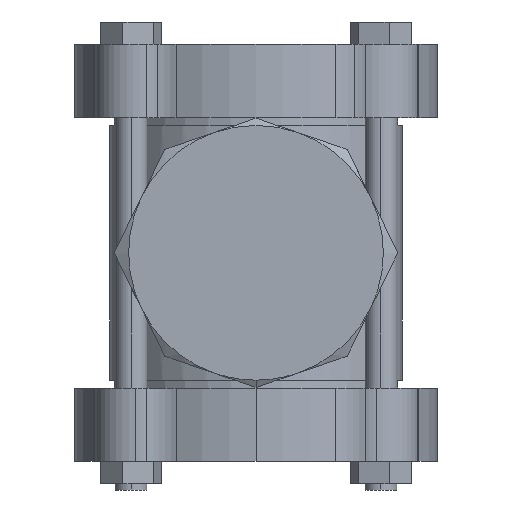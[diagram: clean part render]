
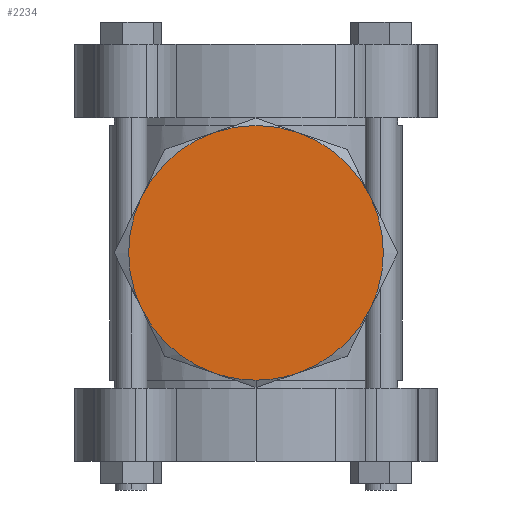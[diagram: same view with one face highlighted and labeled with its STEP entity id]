
A CAD part, left-side view. The second image highlights one B-rep face of the part: STEP entity #2234.
In plain terms, the highlighted planar face has unit normal (-1, 0, 0).
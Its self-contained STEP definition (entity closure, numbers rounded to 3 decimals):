
#44 = EDGE_CURVE ( 'NONE', #5897, #6286, #353, .T. ) ;
#86 = CARTESIAN_POINT ( 'NONE',  ( -81., 0., 0. ) ) ;
#103 = DIRECTION ( 'NONE',  ( 0., 0., -1. ) ) ;
#211 = DIRECTION ( 'NONE',  ( 1., 0., 0. ) ) ;
#218 = DIRECTION ( 'NONE',  ( 0., 0., -1. ) ) ;
#296 = PLANE ( 'NONE',  #2321 ) ;
#353 = CIRCLE ( 'NONE', #3074, 40. ) ;
#376 = AXIS2_PLACEMENT_3D ( 'NONE', #2603, #3188, #1596 ) ;
#561 = AXIS2_PLACEMENT_3D ( 'NONE', #3323, #4325, #218 ) ;
#702 = DIRECTION ( 'NONE',  ( 1., 0., 0. ) ) ;
#735 = VERTEX_POINT ( 'NONE', #889 ) ;
#854 = CARTESIAN_POINT ( 'NONE',  ( -81., -35.927, 17.585 ) ) ;
#889 = CARTESIAN_POINT ( 'NONE',  ( -81., -12.97, -37.839 ) ) ;
#1176 = DIRECTION ( 'NONE',  ( 1., 0., 0. ) ) ;
#1218 = AXIS2_PLACEMENT_3D ( 'NONE', #6439, #6302, #103 ) ;
#1270 = DIRECTION ( 'NONE',  ( 0., 0., -1. ) ) ;
#1299 = ORIENTED_EDGE ( 'NONE', *, *, #44, .F. ) ;
#1360 = CARTESIAN_POINT ( 'NONE',  ( -81., 0., 0. ) ) ;
#1466 = CIRCLE ( 'NONE', #376, 40. ) ;
#1596 = DIRECTION ( 'NONE',  ( 0., 0., -1. ) ) ;
#1866 = DIRECTION ( 'NONE',  ( 0., 0., -1. ) ) ;
#1945 = ORIENTED_EDGE ( 'NONE', *, *, #5722, .F. ) ;
#2021 = ORIENTED_EDGE ( 'NONE', *, *, #3862, .F. ) ;
#2072 = AXIS2_PLACEMENT_3D ( 'NONE', #3851, #5931, #1270 ) ;
#2095 = CIRCLE ( 'NONE', #5349, 40. ) ;
#2136 = CARTESIAN_POINT ( 'NONE',  ( -81., -12.97, 37.839 ) ) ;
#2199 = VERTEX_POINT ( 'NONE', #5428 ) ;
#2234 = ADVANCED_FACE ( 'NONE', ( #2269 ), #296, .F. ) ;
#2269 = FACE_OUTER_BOUND ( 'NONE', #6065, .T. ) ;
#2291 = DIRECTION ( 'NONE',  ( 0., 0., -1. ) ) ;
#2321 = AXIS2_PLACEMENT_3D ( 'NONE', #1360, #702, #1866 ) ;
#2459 = ORIENTED_EDGE ( 'NONE', *, *, #4028, .T. ) ;
#2603 = CARTESIAN_POINT ( 'NONE',  ( -81., 0., 0. ) ) ;
#2616 = AXIS2_PLACEMENT_3D ( 'NONE', #86, #1176, #5802 ) ;
#2623 = DIRECTION ( 'NONE',  ( 1., 0., 0. ) ) ;
#2643 = DIRECTION ( 'NONE',  ( 0., 0., 1. ) ) ;
#2846 = ORIENTED_EDGE ( 'NONE', *, *, #6565, .F. ) ;
#3074 = AXIS2_PLACEMENT_3D ( 'NONE', #5245, #2623, #5666 ) ;
#3097 = ORIENTED_EDGE ( 'NONE', *, *, #6093, .F. ) ;
#3188 = DIRECTION ( 'NONE',  ( 1., 0., 0. ) ) ;
#3273 = DIRECTION ( 'NONE',  ( 1., 0., 0. ) ) ;
#3277 = CIRCLE ( 'NONE', #4145, 40. ) ;
#3323 = CARTESIAN_POINT ( 'NONE',  ( -81., 0., 0. ) ) ;
#3456 = VERTEX_POINT ( 'NONE', #4965 ) ;
#3556 = CARTESIAN_POINT ( 'NONE',  ( -81., -35.927, -17.585 ) ) ;
#3699 = CARTESIAN_POINT ( 'NONE',  ( -81., 0., 0. ) ) ;
#3734 = EDGE_CURVE ( 'NONE', #6222, #735, #4791, .T. ) ;
#3851 = CARTESIAN_POINT ( 'NONE',  ( -81., 0., 0. ) ) ;
#3862 = EDGE_CURVE ( 'NONE', #6711, #4020, #6435, .T. ) ;
#4020 = VERTEX_POINT ( 'NONE', #2136 ) ;
#4028 = EDGE_CURVE ( 'NONE', #6711, #6286, #3277, .T. ) ;
#4052 = CIRCLE ( 'NONE', #1218, 40. ) ;
#4145 = AXIS2_PLACEMENT_3D ( 'NONE', #3699, #4273, #2643 ) ;
#4273 = DIRECTION ( 'NONE',  ( -1., 0., 0. ) ) ;
#4325 = DIRECTION ( 'NONE',  ( 1., 0., 0. ) ) ;
#4564 = ORIENTED_EDGE ( 'NONE', *, *, #4847, .F. ) ;
#4791 = CIRCLE ( 'NONE', #2616, 40. ) ;
#4847 = EDGE_CURVE ( 'NONE', #3456, #5897, #1466, .T. ) ;
#4865 = DIRECTION ( 'NONE',  ( 0., 0., -1. ) ) ;
#4965 = CARTESIAN_POINT ( 'NONE',  ( -81., 12.97, -37.839 ) ) ;
#5007 = CIRCLE ( 'NONE', #2072, 40. ) ;
#5028 = ORIENTED_EDGE ( 'NONE', *, *, #3734, .F. ) ;
#5074 = CARTESIAN_POINT ( 'NONE',  ( -81., 35.927, -17.585 ) ) ;
#5154 = CARTESIAN_POINT ( 'NONE',  ( -81., 35.927, 17.585 ) ) ;
#5210 = CARTESIAN_POINT ( 'NONE',  ( -81., 12.97, 37.839 ) ) ;
#5245 = CARTESIAN_POINT ( 'NONE',  ( -81., 0., 0. ) ) ;
#5305 = CARTESIAN_POINT ( 'NONE',  ( -81., 0., 0. ) ) ;
#5349 = AXIS2_PLACEMENT_3D ( 'NONE', #5393, #211, #2291 ) ;
#5393 = CARTESIAN_POINT ( 'NONE',  ( -81., 0., 0. ) ) ;
#5428 = CARTESIAN_POINT ( 'NONE',  ( -81., 0., -40. ) ) ;
#5443 = CIRCLE ( 'NONE', #6206, 40. ) ;
#5666 = DIRECTION ( 'NONE',  ( 0., 0., -1. ) ) ;
#5722 = EDGE_CURVE ( 'NONE', #735, #2199, #4052, .T. ) ;
#5802 = DIRECTION ( 'NONE',  ( 0., 0., -1. ) ) ;
#5886 = VERTEX_POINT ( 'NONE', #854 ) ;
#5897 = VERTEX_POINT ( 'NONE', #5074 ) ;
#5931 = DIRECTION ( 'NONE',  ( 1., 0., 0. ) ) ;
#6065 = EDGE_LOOP ( 'NONE', ( #4564, #2846, #1945, #5028, #6223, #3097, #2021, #2459, #1299 ) ) ;
#6093 = EDGE_CURVE ( 'NONE', #4020, #5886, #2095, .T. ) ;
#6206 = AXIS2_PLACEMENT_3D ( 'NONE', #5305, #3273, #4865 ) ;
#6222 = VERTEX_POINT ( 'NONE', #3556 ) ;
#6223 = ORIENTED_EDGE ( 'NONE', *, *, #6473, .F. ) ;
#6286 = VERTEX_POINT ( 'NONE', #5154 ) ;
#6302 = DIRECTION ( 'NONE',  ( 1., 0., 0. ) ) ;
#6435 = CIRCLE ( 'NONE', #561, 40. ) ;
#6439 = CARTESIAN_POINT ( 'NONE',  ( -81., 0., 0. ) ) ;
#6473 = EDGE_CURVE ( 'NONE', #5886, #6222, #5443, .T. ) ;
#6565 = EDGE_CURVE ( 'NONE', #2199, #3456, #5007, .T. ) ;
#6711 = VERTEX_POINT ( 'NONE', #5210 ) ;
